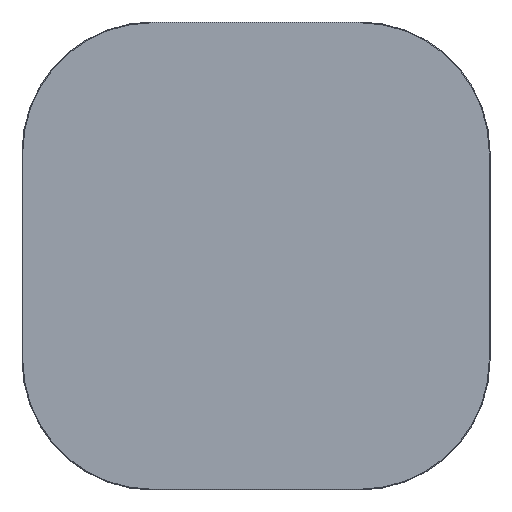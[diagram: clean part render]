
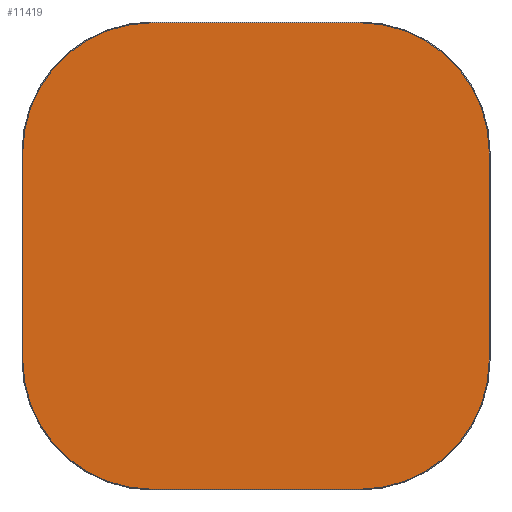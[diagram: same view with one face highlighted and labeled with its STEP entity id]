
A CAD part, top view. The second image highlights one B-rep face of the part: STEP entity #11419.
In plain terms, the highlighted planar face has unit normal (0, 0, 1).
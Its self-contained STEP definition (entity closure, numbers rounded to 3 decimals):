
#11344=CARTESIAN_POINT('',(0.,0.,20.));
#11345=DIRECTION('',(1.,0.,0.));
#11346=DIRECTION('',(0.,0.,1.));
#11347=AXIS2_PLACEMENT_3D('',#11344,#11346,#11345);
#11348=PLANE('',#11347);
#11349=CARTESIAN_POINT('',(-200.,-448.5,20.));
#11350=VERTEX_POINT('',#11349);
#11351=CARTESIAN_POINT('',(200.,-448.5,20.));
#11352=VERTEX_POINT('',#11351);
#11353=CARTESIAN_POINT('',(-200.,-448.5,20.));
#11354=DIRECTION('',(1.,0.,0.));
#11355=VECTOR('',#11354,400.);
#11356=LINE('',#11353,#11355);
#11357=EDGE_CURVE('',#11350,#11352,#11356,.T.);
#11358=ORIENTED_EDGE('E105',*,*,#11357,.T.);
#11359=CARTESIAN_POINT('',(448.5,-200.,20.));
#11360=VERTEX_POINT('',#11359);
#11361=CARTESIAN_POINT('',(200.,-200.,20.));
#11362=DIRECTION('',(0.,-1.,0.));
#11363=DIRECTION('',(0.,0.,1.));
#11364=AXIS2_PLACEMENT_3D('',#11361,#11363,#11362);
#11365=CIRCLE('',#11364,248.5);
#11366=EDGE_CURVE('',#11352,#11360,#11365,.T.);
#11367=ORIENTED_EDGE('E107',*,*,#11366,.T.);
#11368=CARTESIAN_POINT('',(448.5,200.,20.));
#11369=VERTEX_POINT('',#11368);
#11370=CARTESIAN_POINT('',(448.5,-200.,20.));
#11371=DIRECTION('',(0.,1.,0.));
#11372=VECTOR('',#11371,400.);
#11373=LINE('',#11370,#11372);
#11374=EDGE_CURVE('',#11360,#11369,#11373,.T.);
#11375=ORIENTED_EDGE('E109',*,*,#11374,.T.);
#11376=CARTESIAN_POINT('',(200.,448.5,20.));
#11377=VERTEX_POINT('',#11376);
#11378=CARTESIAN_POINT('',(200.,200.,20.));
#11379=DIRECTION('',(1.,0.,0.));
#11380=DIRECTION('',(0.,0.,1.));
#11381=AXIS2_PLACEMENT_3D('',#11378,#11380,#11379);
#11382=CIRCLE('',#11381,248.5);
#11383=EDGE_CURVE('',#11369,#11377,#11382,.T.);
#11384=ORIENTED_EDGE('E111',*,*,#11383,.T.);
#11385=CARTESIAN_POINT('',(-200.,448.5,20.));
#11386=VERTEX_POINT('',#11385);
#11387=CARTESIAN_POINT('',(200.,448.5,20.));
#11388=DIRECTION('',(-1.,0.,0.));
#11389=VECTOR('',#11388,400.);
#11390=LINE('',#11387,#11389);
#11391=EDGE_CURVE('',#11377,#11386,#11390,.T.);
#11392=ORIENTED_EDGE('E113',*,*,#11391,.T.);
#11393=CARTESIAN_POINT('',(-448.5,200.,20.));
#11394=VERTEX_POINT('',#11393);
#11395=CARTESIAN_POINT('',(-200.,200.,20.));
#11396=DIRECTION('',(0.,1.,0.));
#11397=DIRECTION('',(0.,0.,1.));
#11398=AXIS2_PLACEMENT_3D('',#11395,#11397,#11396);
#11399=CIRCLE('',#11398,248.5);
#11400=EDGE_CURVE('',#11386,#11394,#11399,.T.);
#11401=ORIENTED_EDGE('E115',*,*,#11400,.T.);
#11402=CARTESIAN_POINT('',(-448.5,-200.,20.));
#11403=VERTEX_POINT('',#11402);
#11404=CARTESIAN_POINT('',(-448.5,200.,20.));
#11405=DIRECTION('',(0.,-1.,0.));
#11406=VECTOR('',#11405,400.);
#11407=LINE('',#11404,#11406);
#11408=EDGE_CURVE('',#11394,#11403,#11407,.T.);
#11409=ORIENTED_EDGE('E117',*,*,#11408,.T.);
#11410=CARTESIAN_POINT('',(-200.,-200.,20.));
#11411=DIRECTION('',(-1.,0.,0.));
#11412=DIRECTION('',(-0.,0.,1.));
#11413=AXIS2_PLACEMENT_3D('',#11410,#11412,#11411);
#11414=CIRCLE('',#11413,248.5);
#11415=EDGE_CURVE('',#11403,#11350,#11414,.T.);
#11416=ORIENTED_EDGE('E119',*,*,#11415,.T.);
#11417=EDGE_LOOP('',(#11358,#11367,#11375,#11384,#11392,#11401,#11409,#11416));
#11418=FACE_OUTER_BOUND('',#11417,.T.);
#11419=ADVANCED_FACE('F2',(#11418),#11348,.T.);
